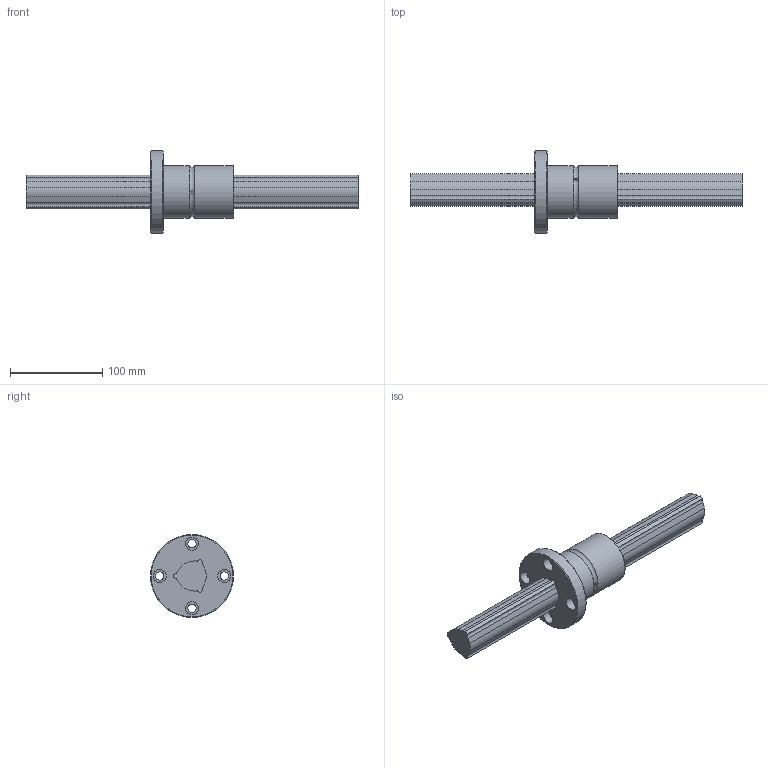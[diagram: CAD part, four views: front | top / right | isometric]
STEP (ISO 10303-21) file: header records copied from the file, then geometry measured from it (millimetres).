
FILE_DESCRIPTION(/* description */ ('STEP AP203'),/* implementation_level */ '2;1');
FILE_NAME(/* name */ 'LBF40+360L(3601350)',/* time_stamp */ '2024-05-20T14:17:16+02:00',/* author */ ('License CC BY-ND 4.0'),/* organization */ ('CADENAS'),/* preprocessor_version */ 'ST-DEVELOPER v19.3',/* originating_system */ 'PARTsolutions',/* authorisation */ ' ');
FILE_SCHEMA (('CONFIG_CONTROL_DESIGN'));
Length unit declared in the file: millimetre
Products named in the file (3): LBF40+360L(3601350); LBF401360 Spline Shaft; LBF40 Nut
Assembly tree (2 placements, depth 2):
  LBF40+360L(3601350)
    LBF401360 Spline Shaft
    LBF40 Nut
Bounding box: 360 x 90 x 90 mm (x, y, z)
Volume: 505847.8 mm3; surface area: 84104.3 mm2
Topology: 2 solids, 2 shells, 66 faces, 165 edges, 111 vertices
Faces by surface type: cylinder 38, plane 24, torus 2, cone 2
Full cylindrical faces by diameter (mm): 3 x3, 9 x4, 14 x4, 57 x2, 90 x1
Entity records: 1967 total; most frequent: DIRECTION 350, CARTESIAN_POINT 342, ORIENTED_EDGE 278, AXIS2_PLACEMENT_3D 145, EDGE_CURVE 139, VERTEX_POINT 103, EDGE_LOOP 102, FACE_BOUND 102
